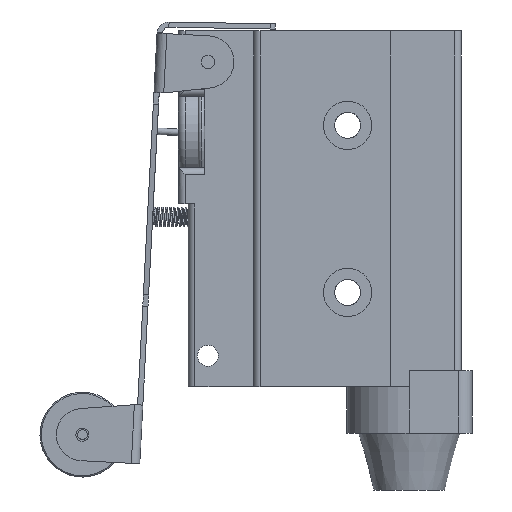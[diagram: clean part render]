
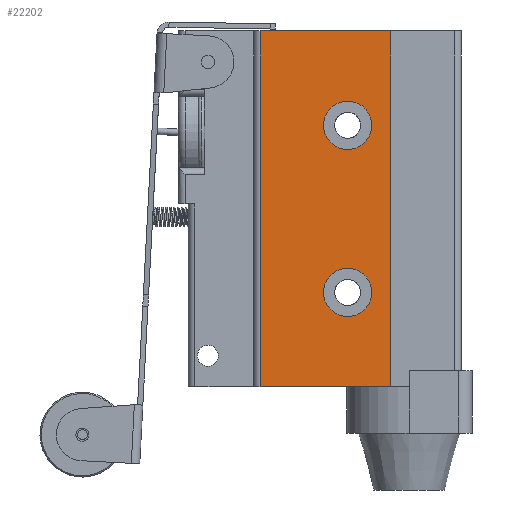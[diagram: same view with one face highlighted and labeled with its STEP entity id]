
A CAD part, left-side view. The second image highlights one B-rep face of the part: STEP entity #22202.
In plain terms, the highlighted planar face has unit normal (-1, 0, 0).
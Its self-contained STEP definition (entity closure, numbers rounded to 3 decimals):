
#307 = FACE_BOUND ( 'NONE', #10148, .T. ) ;
#1134 = CARTESIAN_POINT ( 'NONE',  ( -2.9, 17.4, -36.35 ) ) ;
#1332 = CARTESIAN_POINT ( 'NONE',  ( -2.9, 30.8, -54.5 ) ) ;
#1540 = DIRECTION ( 'NONE',  ( 0., -1., 0. ) ) ;
#2263 = DIRECTION ( 'NONE',  ( -1., 0., 0. ) ) ;
#2442 = DIRECTION ( 'NONE',  ( 0., -1., 0. ) ) ;
#2625 = DIRECTION ( 'NONE',  ( 0., 0., 1. ) ) ;
#3072 = EDGE_CURVE ( 'NONE', #10305, #10305, #17185, .T. ) ;
#3654 = LINE ( 'NONE', #15411, #19741 ) ;
#4455 = DIRECTION ( 'NONE',  ( 0., 0., 1. ) ) ;
#4533 = EDGE_CURVE ( 'NONE', #11243, #12194, #18333, .T. ) ;
#4748 = ORIENTED_EDGE ( 'NONE', *, *, #22760, .F. ) ;
#5596 = FACE_BOUND ( 'NONE', #16339, .T. ) ;
#6075 = AXIS2_PLACEMENT_3D ( 'NONE', #16272, #2263, #4455 ) ;
#6509 = AXIS2_PLACEMENT_3D ( 'NONE', #21592, #13596, #21669 ) ;
#6533 = CARTESIAN_POINT ( 'NONE',  ( -2.9, 10.8, -54.5 ) ) ;
#9064 = ORIENTED_EDGE ( 'NONE', *, *, #4533, .T. ) ;
#9280 = CARTESIAN_POINT ( 'NONE',  ( -2.9, 10.8, -54.5 ) ) ;
#9317 = ORIENTED_EDGE ( 'NONE', *, *, #10850, .F. ) ;
#9847 = ORIENTED_EDGE ( 'NONE', *, *, #10934, .T. ) ;
#10148 = EDGE_LOOP ( 'NONE', ( #20553 ) ) ;
#10305 = VERTEX_POINT ( 'NONE', #12366 ) ;
#10850 = EDGE_CURVE ( 'NONE', #19858, #22689, #23395, .T. ) ;
#10934 = EDGE_CURVE ( 'NONE', #19858, #11243, #23368, .T. ) ;
#11243 = VERTEX_POINT ( 'NONE', #9280 ) ;
#12194 = VERTEX_POINT ( 'NONE', #16456 ) ;
#12366 = CARTESIAN_POINT ( 'NONE',  ( -2.9, 17.4, -10.75 ) ) ;
#13167 = CARTESIAN_POINT ( 'NONE',  ( -2.9, 10.8, -54.5 ) ) ;
#13235 = DIRECTION ( 'NONE',  ( 0., 0., 1. ) ) ;
#13596 = DIRECTION ( 'NONE',  ( -1., 0., 0. ) ) ;
#15162 = EDGE_LOOP ( 'NONE', ( #16566, #9317, #9847, #9064 ) ) ;
#15325 = PLANE ( 'NONE',  #6509 ) ;
#15411 = CARTESIAN_POINT ( 'NONE',  ( -2.9, 10.8, 0. ) ) ;
#16197 = CARTESIAN_POINT ( 'NONE',  ( -2.9, 30.8, -54.5 ) ) ;
#16272 = CARTESIAN_POINT ( 'NONE',  ( -2.9, 17.4, -14.45 ) ) ;
#16339 = EDGE_LOOP ( 'NONE', ( #4748 ) ) ;
#16355 = CARTESIAN_POINT ( 'NONE',  ( -2.9, 17.4, -40.05 ) ) ;
#16456 = CARTESIAN_POINT ( 'NONE',  ( -2.9, 10.8, 0. ) ) ;
#16566 = ORIENTED_EDGE ( 'NONE', *, *, #22987, .F. ) ;
#16963 = CIRCLE ( 'NONE', #24440, 3.7 ) ;
#17185 = CIRCLE ( 'NONE', #6075, 3.7 ) ;
#17487 = CARTESIAN_POINT ( 'NONE',  ( -2.9, 30.8, 0. ) ) ;
#17744 = DIRECTION ( 'NONE',  ( 0., 0., 1. ) ) ;
#18005 = VERTEX_POINT ( 'NONE', #1134 ) ;
#18098 = VECTOR ( 'NONE', #2625, 1000. ) ;
#18333 = LINE ( 'NONE', #13167, #21726 ) ;
#19325 = VECTOR ( 'NONE', #2442, 1000. ) ;
#19741 = VECTOR ( 'NONE', #1540, 1000. ) ;
#19858 = VERTEX_POINT ( 'NONE', #1332 ) ;
#20465 = FACE_OUTER_BOUND ( 'NONE', #15162, .T. ) ;
#20553 = ORIENTED_EDGE ( 'NONE', *, *, #3072, .F. ) ;
#21592 = CARTESIAN_POINT ( 'NONE',  ( -2.9, 10.8, -54.5 ) ) ;
#21669 = DIRECTION ( 'NONE',  ( 0., 0., 1. ) ) ;
#21726 = VECTOR ( 'NONE', #13235, 1000. ) ;
#22202 = ADVANCED_FACE ( 'NONE', ( #5596, #307, #20465 ), #15325, .T. ) ;
#22689 = VERTEX_POINT ( 'NONE', #17487 ) ;
#22760 = EDGE_CURVE ( 'NONE', #18005, #18005, #16963, .T. ) ;
#22987 = EDGE_CURVE ( 'NONE', #22689, #12194, #3654, .T. ) ;
#23368 = LINE ( 'NONE', #6533, #19325 ) ;
#23395 = LINE ( 'NONE', #16197, #18098 ) ;
#24337 = DIRECTION ( 'NONE',  ( -1., 0., 0. ) ) ;
#24440 = AXIS2_PLACEMENT_3D ( 'NONE', #16355, #24337, #17744 ) ;
